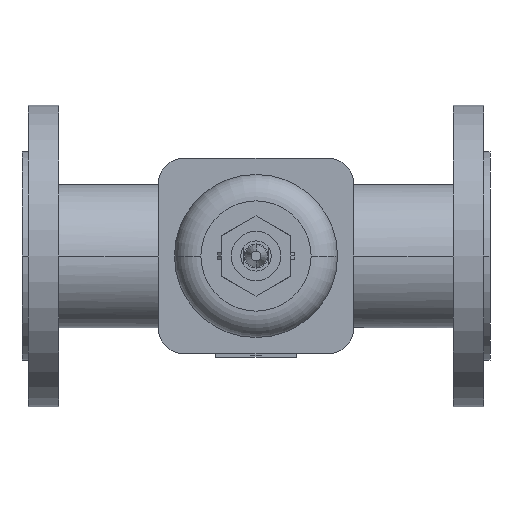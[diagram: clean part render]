
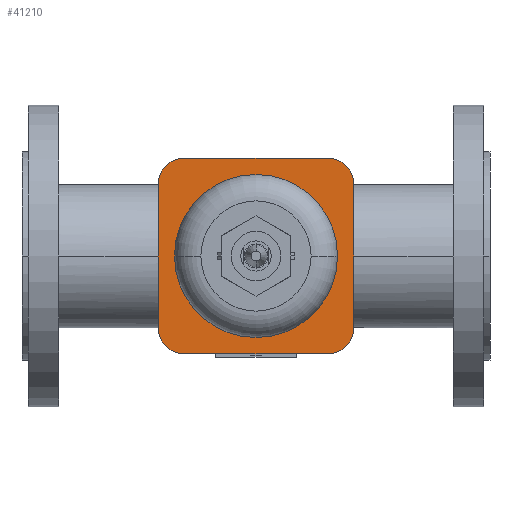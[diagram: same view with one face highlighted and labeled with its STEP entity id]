
A CAD part, front view. The second image highlights one B-rep face of the part: STEP entity #41210.
In plain terms, the highlighted planar face has unit normal (0, -1, 0).
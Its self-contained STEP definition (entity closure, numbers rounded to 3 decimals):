
#5350=CARTESIAN_POINT('',(101.,-124.62,0.));
#5360=VERTEX_POINT('',#5350);
#5390=CARTESIAN_POINT('',(155.,-124.62,0.));
#5400=DIRECTION('',(0.,-1.,0.));
#5410=DIRECTION('',(-1.,0.,0.));
#5420=AXIS2_PLACEMENT_3D('',#5390,#5400,#5410);
#5430=CIRCLE('',#5420,54.);
#5440=CARTESIAN_POINT('',(209.,-124.62,0.));
#5450=VERTEX_POINT('',#5440);
#5460=EDGE_CURVE('',#5450,#5360,#5430,.T.);
#31390=CARTESIAN_POINT('',(202.73,-124.62,64.73));
#31400=VERTEX_POINT('',#31390);
#31430=CARTESIAN_POINT('',(96.26,-124.62,64.73));
#31440=DIRECTION('',(-1.,0.,0.));
#31450=VECTOR('',#31440,1.);
#31460=LINE('',#31430,#31450);
#31470=CARTESIAN_POINT('',(107.27,-124.62,64.73));
#31480=VERTEX_POINT('',#31470);
#31490=EDGE_CURVE('',#31400,#31480,#31460,.T.);
#31860=CARTESIAN_POINT('',(107.27,-124.62,-64.73));
#31870=VERTEX_POINT('',#31860);
#31900=CARTESIAN_POINT('',(143.99,-124.62,-64.73));
#31910=DIRECTION('',(1.,0.,0.));
#31920=VECTOR('',#31910,1.);
#31930=LINE('',#31900,#31920);
#31940=CARTESIAN_POINT('',(202.73,-124.62,-64.73));
#31950=VERTEX_POINT('',#31940);
#31960=EDGE_CURVE('',#31870,#31950,#31930,.T.);
#36360=CARTESIAN_POINT('',(202.73,-124.62,-47.73));
#36370=DIRECTION('',(0.,-1.,0.));
#36380=DIRECTION('',(1.,0.,0.));
#36390=AXIS2_PLACEMENT_3D('',#36360,#36370,#36380);
#36400=CIRCLE('',#36390,17.);
#36410=CARTESIAN_POINT('',(219.73,-124.62,-47.73));
#36420=VERTEX_POINT('',#36410);
#36430=EDGE_CURVE('',#31950,#36420,#36400,.T.);
#37670=CARTESIAN_POINT('',(90.27,-124.62,47.73));
#37680=VERTEX_POINT('',#37670);
#37710=CARTESIAN_POINT('',(90.27,-124.62,-23.865));
#37720=DIRECTION('',(0.,0.,-1.));
#37730=VECTOR('',#37720,1.);
#37740=LINE('',#37710,#37730);
#37750=CARTESIAN_POINT('',(90.27,-124.62,-47.73));
#37760=VERTEX_POINT('',#37750);
#37770=EDGE_CURVE('',#37680,#37760,#37740,.T.);
#38250=CARTESIAN_POINT('',(107.27,-124.62,47.73));
#38260=DIRECTION('',(0.,-1.,0.));
#38270=DIRECTION('',(-1.,0.,0.));
#38280=AXIS2_PLACEMENT_3D('',#38250,#38260,#38270);
#38290=CIRCLE('',#38280,17.);
#38300=EDGE_CURVE('',#31480,#37680,#38290,.T.);
#39600=CARTESIAN_POINT('',(107.27,-124.62,-47.73));
#39610=DIRECTION('',(0.,-1.,0.));
#39620=DIRECTION('',(0.,0.,-1.));
#39630=AXIS2_PLACEMENT_3D('',#39600,#39610,#39620);
#39640=CIRCLE('',#39630,17.);
#39650=EDGE_CURVE('',#37760,#31870,#39640,.T.);
#40700=CARTESIAN_POINT('',(219.73,-124.62,23.865));
#40710=DIRECTION('',(0.,0.,1.));
#40720=VECTOR('',#40710,1.);
#40730=LINE('',#40700,#40720);
#40740=CARTESIAN_POINT('',(219.73,-124.62,47.73));
#40750=VERTEX_POINT('',#40740);
#40760=EDGE_CURVE('',#36420,#40750,#40730,.T.);
#40950=CARTESIAN_POINT('',(85.25,-124.62,0.));
#40960=DIRECTION('',(0.,-1.,0.));
#40970=DIRECTION('',(-1.,0.,0.));
#40980=AXIS2_PLACEMENT_3D('',#40950,#40960,#40970);
#40990=PLANE('',#40980);
#41000=ORIENTED_EDGE('',*,*,#38300,.T.);
#41010=ORIENTED_EDGE('',*,*,#31490,.T.);
#41020=CARTESIAN_POINT('',(202.73,-124.62,47.73));
#41030=DIRECTION('',(0.,-1.,0.));
#41040=DIRECTION('',(0.,0.,1.));
#41050=AXIS2_PLACEMENT_3D('',#41020,#41030,#41040);
#41060=CIRCLE('',#41050,17.);
#41070=EDGE_CURVE('',#40750,#31400,#41060,.T.);
#41080=ORIENTED_EDGE('',*,*,#41070,.T.);
#41090=ORIENTED_EDGE('',*,*,#40760,.T.);
#41100=ORIENTED_EDGE('',*,*,#36430,.T.);
#41110=ORIENTED_EDGE('',*,*,#31960,.T.);
#41120=ORIENTED_EDGE('',*,*,#39650,.T.);
#41130=ORIENTED_EDGE('',*,*,#37770,.T.);
#41140=EDGE_LOOP('',(#41130,#41120,#41110,#41100,#41090,#41080,#41010,
#41000));
#41150=FACE_OUTER_BOUND('',#41140,.T.);
#41160=EDGE_CURVE('',#5360,#5450,#5430,.T.);
#41170=ORIENTED_EDGE('',*,*,#41160,.F.);
#41180=ORIENTED_EDGE('',*,*,#5460,.F.);
#41190=EDGE_LOOP('',(#41180,#41170));
#41200=FACE_BOUND('',#41190,.T.);
#41210=ADVANCED_FACE('',(#41150,#41200),#40990,.T.);
